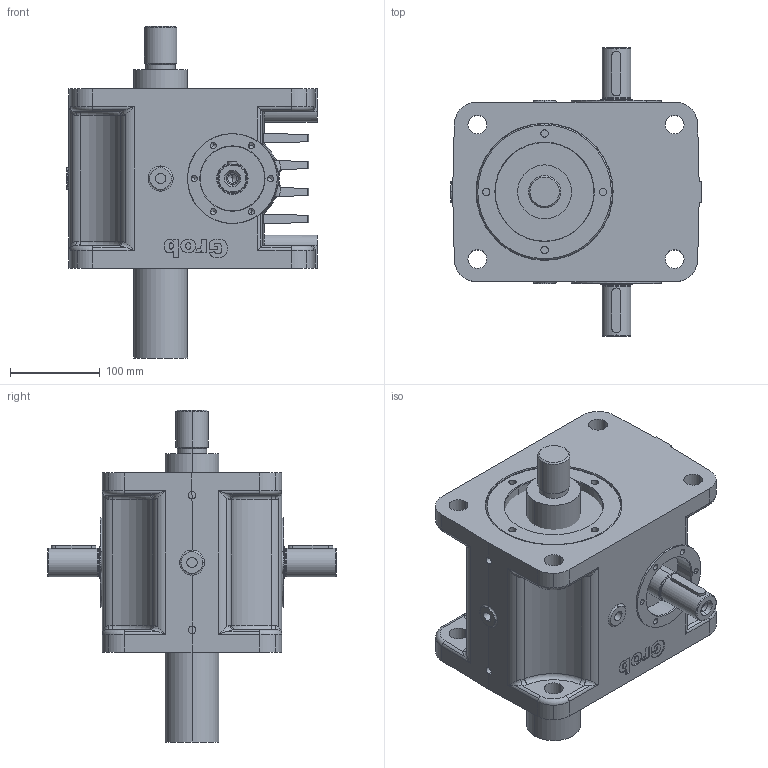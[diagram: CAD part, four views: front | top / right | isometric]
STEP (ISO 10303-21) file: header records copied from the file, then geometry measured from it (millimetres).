
FILE_DESCRIPTION(('STEP AP203'),'1');
FILE_NAME('hmc10-gn-kd-kd-1f-ge-0100-0000-tr60x12-b-0-o-0.stp','2025-08-19T11:51:22',('TraceParts'),('TraceParts S.A.'),'Spatial InterOp 3D',' ',' ');
FILE_SCHEMA(('CONFIG_CONTROL_DESIGN'));
Length unit declared in the file: millimetre
Products named in the file (1): 1
Bounding box: 279 x 322 x 370 mm (x, y, z)
Volume: 10119303.2 mm3; surface area: 612737.1 mm2
Topology: 7 solids, 7 shells, 646 faces, 1618 edges, 995 vertices
Faces by surface type: cylinder 232, plane 152, cone 108, bspline 94, torus 60
Entity records: 21136 total; most frequent: CARTESIAN_POINT 6118, ORIENTED_EDGE 3132, DIRECTION 3075, EDGE_CURVE 1566, AXIS2_PLACEMENT_3D 1205, VERTEX_POINT 995, EDGE_LOOP 727, LINE 665
